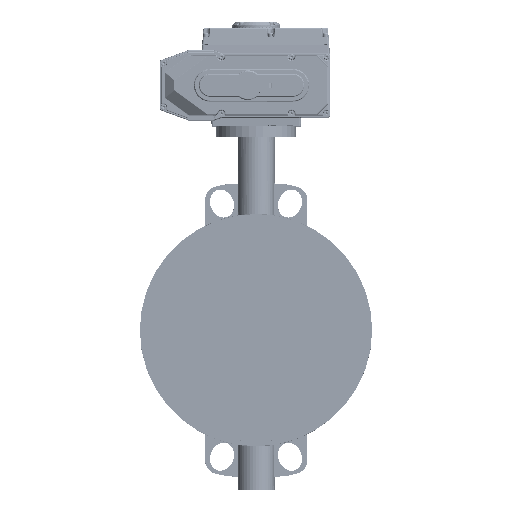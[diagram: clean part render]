
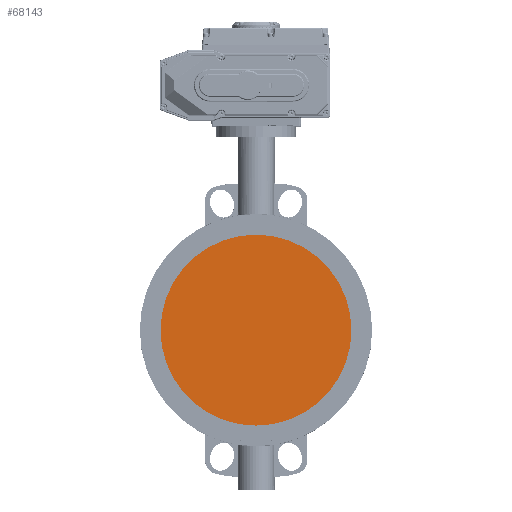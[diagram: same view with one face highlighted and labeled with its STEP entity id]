
A CAD part, top view. The second image highlights one B-rep face of the part: STEP entity #68143.
In plain terms, the highlighted planar face has unit normal (0, 0, 1).
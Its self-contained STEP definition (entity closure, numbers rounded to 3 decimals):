
#68143=ADVANCED_FACE('',(#155862),#155864,.T.);
#155862=FACE_BOUND('',#155863,.T.);
#155863=EDGE_LOOP('',(#195484));
#155864=PLANE('',#155865);
#155865=AXIS2_PLACEMENT_3D('',#155866,#155867,#155868);
#155866=CARTESIAN_POINT('',(533.028,-534.372,30.475));
#155867=DIRECTION('',(0.,0.,1.));
#155868=DIRECTION('',(1.,0.,0.));
#195484=ORIENTED_EDGE('',*,*,#215259,.T.);
#215259=EDGE_CURVE('',#248084,#248084,#248085,.T.);
#248084=VERTEX_POINT('',#430314);
#248085=CIRCLE('',#430315,150.);
#430314=CARTESIAN_POINT('',(683.028,-534.372,30.475));
#430315=AXIS2_PLACEMENT_3D('',#430316,#430317,#430318);
#430316=CARTESIAN_POINT('',(533.028,-534.372,30.475));
#430317=DIRECTION('',(0.,0.,1.));
#430318=DIRECTION('',(0.,-1.,0.));
